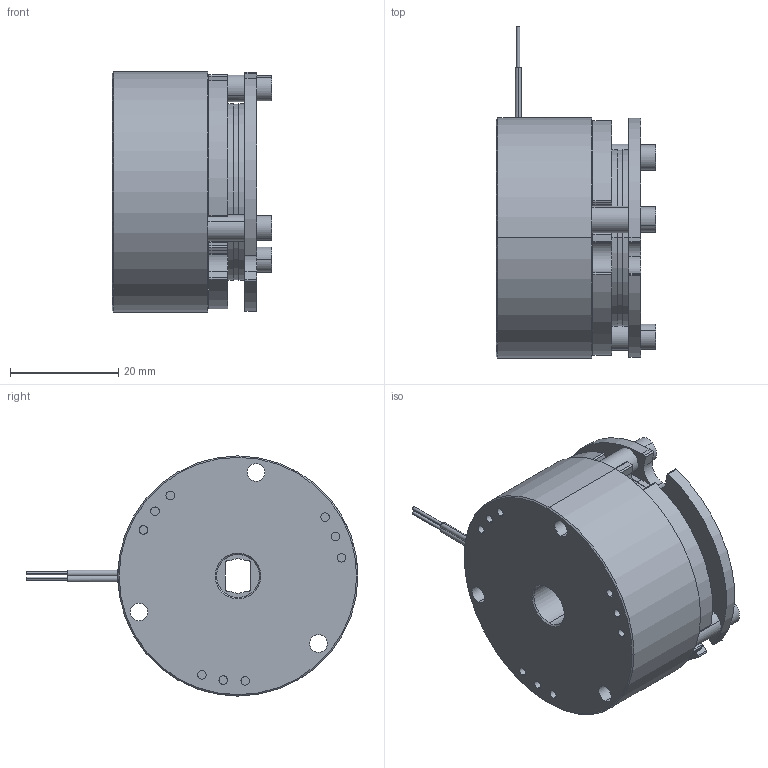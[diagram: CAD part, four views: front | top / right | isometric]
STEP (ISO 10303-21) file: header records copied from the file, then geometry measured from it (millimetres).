
FILE_DESCRIPTION (( 'STEP AP214' ), '1' );
FILE_NAME ('AD1.75HP.STEP', '2025-11-11T16:11:31', ( '' ), ( '' ), 'SwSTEP 2.0', 'SolidWorks 2024', '' );
FILE_SCHEMA (( 'AUTOMOTIVE_DESIGN' ));
Length unit declared in the file: inch
Products named in the file (1): AD1.75HP
Bounding box: 29.46 x 61.4 x 44.42 mm (x, y, z)
Volume: 35062.6 mm3; surface area: 18182.8 mm2
Topology: 6 solids, 6 shells, 363 faces, 895 edges, 592 vertices
Faces by surface type: cylinder 208, plane 119, bspline 24, cone 10, torus 2
Entity records: 66816 total; most frequent: CARTESIAN_POINT 58049, DIRECTION 1821, ORIENTED_EDGE 1790, EDGE_CURVE 895, AXIS2_PLACEMENT_3D 731, VERTEX_POINT 592, EDGE_LOOP 435, CIRCLE 391
